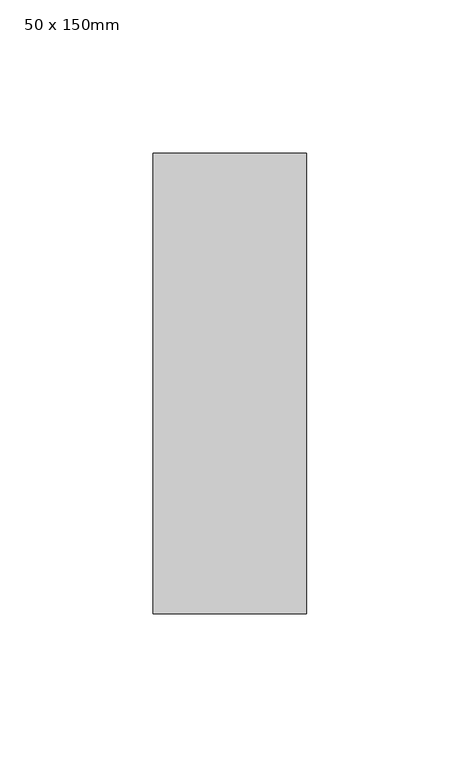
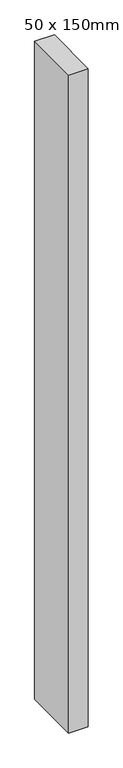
"""IFC4 building model written with IfcOpenShell, lengths in millimetres: member geometry, 矩形竖梃 : 50 x 150mm."""

from ifc_helpers import new_model, si_unit, frame, origin, place, context, project, spatial, polyline, outline, extrude, source, transform, mapped, element, save


def member_50_x_150mm_dc49d761(model_context):
    return source(origin(), model_context, "Body", "SweptSolid", [
        extrude(outline(polyline([(25.0, 75.0), (25.0, -75.0), (-25.0, -75.0), (-25.0, 75.0), (25.0, 75.0)])), frame((0.0, 0.0, -1775.0), z_axis=(0.0, 0.0, 1.0), x_axis=(1.0, 0.0, 0.0)), (0.0, 0.0, 1.0), 1775.0),
    ])


if __name__ == "__main__":
    model = new_model("IFC4")
    model_context = context("Model", 3, world=origin())
    ifc_project = project(units=[si_unit("LENGTHUNIT", "METRE", prefix="MILLI")], contexts=[model_context])
    site = spatial("IfcSite", under=ifc_project)
    building = spatial("IfcBuilding", under=site)
    placement = place(None, origin())
    member_50_x_150mm_shape = member_50_x_150mm_dc49d761(model_context)
    element("IfcMember", 1, ObjectType="矩形竖梃 : 50 x 150mm", at=placement, inside=building, context=model_context, shape_type="MappedRepresentation", body=[
        mapped(member_50_x_150mm_shape, transform((0.0, 0.0, 0.0), x_axis=(1.0, 0.0, 0.0), y_axis=(0.0, 1.0, 0.0), z_axis=(0.0, 0.0, 1.0))),
    ])
    save(model, "model.ifc")
